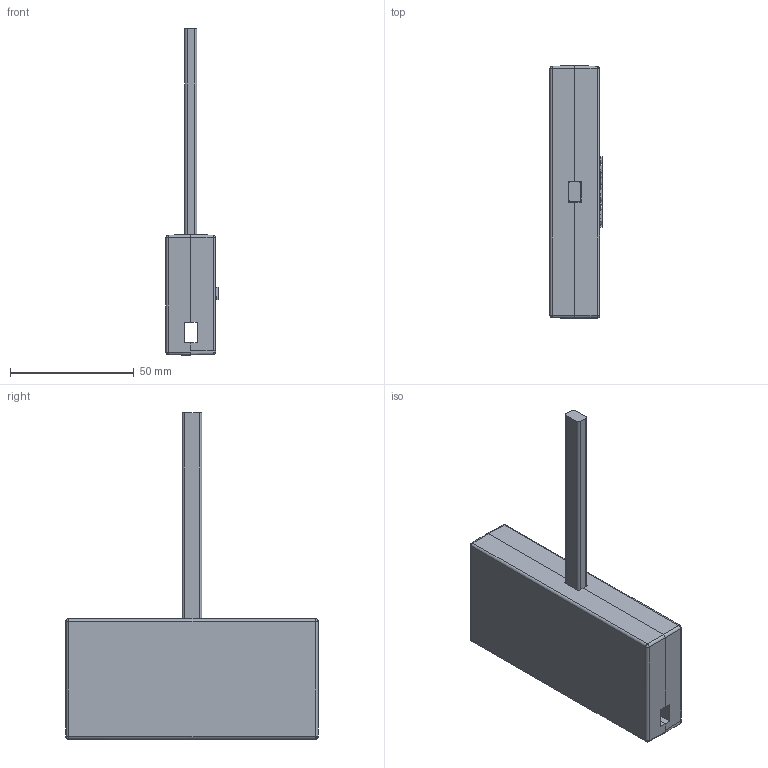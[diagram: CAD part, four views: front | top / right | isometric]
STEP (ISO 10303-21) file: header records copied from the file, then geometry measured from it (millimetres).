
FILE_DESCRIPTION(/* description */ (''),/* implementation_level */ '2;1');
FILE_NAME(/* name */ 'Funivia - Power Device',/* time_stamp */ '2022-08-29T17:23:27+02:00',/* author */ (''),/* organization */ (''),/* preprocessor_version */ 'ST-DEVELOPER v16.5',/* originating_system */ 'Rhino 7.17',/* authorisation */ '');
FILE_SCHEMA (('AUTOMOTIVE_DESIGN'));
Length unit declared in the file: millimetre
Products named in the file (1): Document
Bounding box: 21 x 101.8 x 131.67 mm (x, y, z)
Volume: 97191 mm3; surface area: 21115.4 mm2
Topology: 1 solids, 1 shells, 324 faces, 898 edges, 584 vertices
Faces by surface type: plane 276, cylinder 33, bspline 15
Entity records: 9685 total; most frequent: CARTESIAN_POINT 3591, ORIENTED_EDGE 1788, EDGE_CURVE 894, B_SPLINE_CURVE_WITH_KNOTS 827, VERTEX_POINT 584, EDGE_LOOP 338, ADVANCED_FACE 324, FACE_OUTER_BOUND 324
